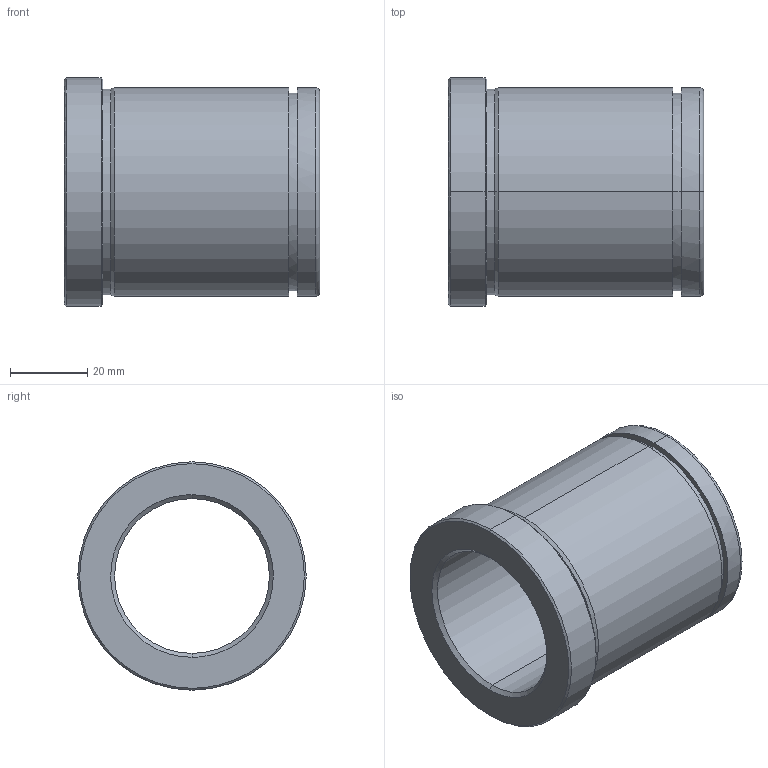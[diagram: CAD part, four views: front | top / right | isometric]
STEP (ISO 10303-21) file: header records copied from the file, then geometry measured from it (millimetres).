
FILE_DESCRIPTION(('CATIA V5 STEP Exchange'),'2;1');
FILE_NAME('C:\Users\Utente\Desktop\IO LAVORO\3D X SITO CF\X SITO\PLASTICA\553\553-40X66.stp','2021-06-03T18:29:43+00:00',('none'),('none'),'CATIA Version 5 Release 20 GA (IN-10)','CATIA V5 STEP AP203','none');
FILE_SCHEMA(('CONFIG_CONTROL_DESIGN'));
Length unit declared in the file: millimetre
Products named in the file (1): 553-40X66
Bounding box: 66 x 59 x 59 mm (x, y, z)
Volume: 71582.3 mm3; surface area: 22774 mm2
Topology: 1 solids, 1 shells, 29 faces, 92 edges, 68 vertices
Faces by surface type: cylinder 12, cone 8, plane 5, torus 4
Entity records: 1222 total; most frequent: CARTESIAN_POINT 368, ORIENTED_EDGE 184, DIRECTION 136, EDGE_CURVE 92, AXIS2_PLACEMENT_3D 88, VERTEX_POINT 68, CIRCLE 58, EDGE_LOOP 34
